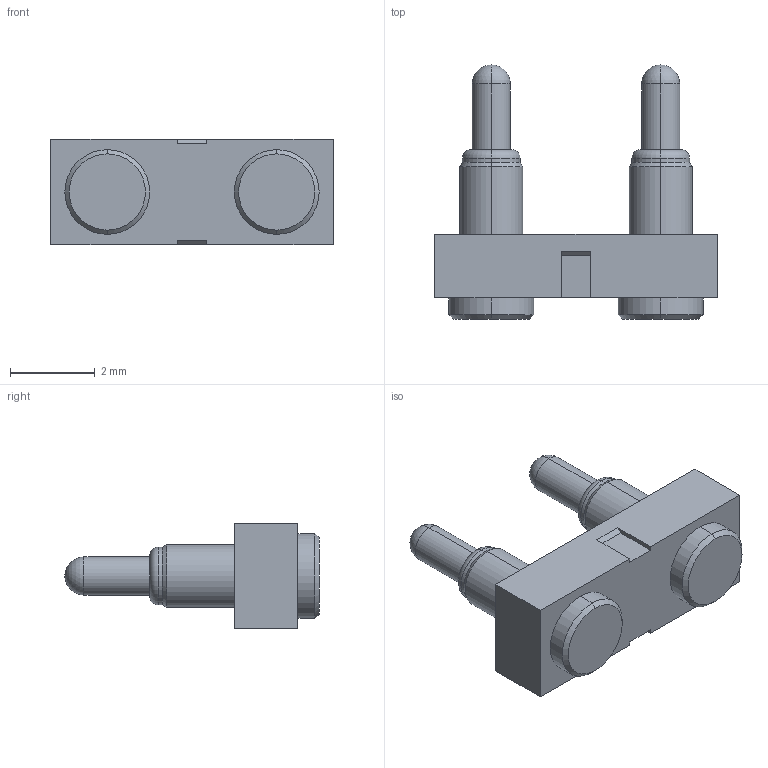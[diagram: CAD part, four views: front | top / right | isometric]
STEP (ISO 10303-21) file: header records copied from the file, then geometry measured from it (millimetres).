
FILE_DESCRIPTION((''),'2;1');
FILE_NAME('ASM0001_ASM','2021-11-27T08:33:56',('Administrator'),(''),'CREO PARAMETRIC BY PTC INC, 2018400','CREO PARAMETRIC BY PTC INC, 2018400','');
FILE_SCHEMA(('CONFIG_CONTROL_DESIGN'));
Length unit declared in the file: millimetre
Products named in the file (3): PH-2P-4_0PH-1_5H-AC; NC2921-01PA; ASM0001_ASM
Assembly tree (3 placements, depth 2):
  ASM0001_ASM
    PH-2P-4_0PH-1_5H-AC
    NC2921-01PA  x2
Bounding box: 6.66 x 6 x 2.5 mm (x, y, z)
Volume: 36.8 mm3; surface area: 127.8 mm2
Topology: 3 solids, 3 shells, 76 faces, 164 edges, 98 vertices
Faces by surface type: cylinder 32, plane 24, cone 12, torus 4, sphere 4
Entity records: 1402 total; most frequent: DIRECTION 254, CARTESIAN_POINT 222, ORIENTED_EDGE 208, EDGE_CURVE 104, AXIS2_PLACEMENT_3D 97, VERTEX_POINT 65, VECTOR 60, LINE 60
